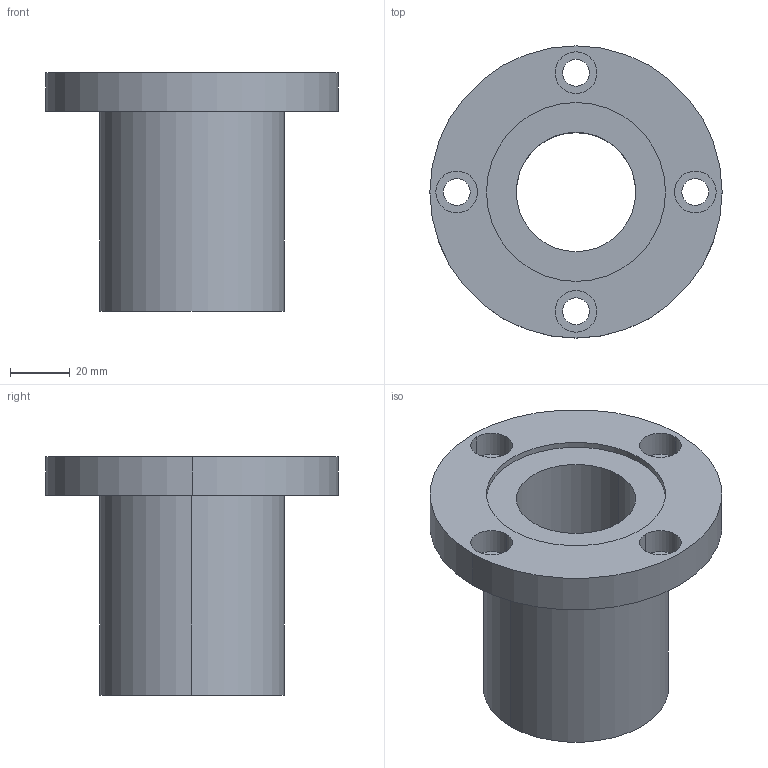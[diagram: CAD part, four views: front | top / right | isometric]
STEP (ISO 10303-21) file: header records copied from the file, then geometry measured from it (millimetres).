
FILE_DESCRIPTION((''),'2;1');
FILE_NAME('C:\Documents and Settings\ｿﾀﾀ蠑ｷ1\ｹﾙﾅﾁ ﾈｭｸ饅\ｺﾎﾇｰﾆﾄﾀﾏ\ﾁｦﾇｰ\LMEF__UU\LMEF40UU.stp','2005-06-15T10:51:35',('ｿﾀﾀ蠑ｷ1'),(''),'Autodesk Inventor 9','Autodesk Inventor 9','');
FILE_SCHEMA(('AUTOMOTIVE_DESIGN { 1 0 10303 214 1 1 1 1 }'));
Length unit declared in the file: millimetre
Products named in the file (1): LMEF__(L)
Bounding box: 98 x 98 x 80 mm (x, y, z)
Volume: 187107.6 mm3; surface area: 41431 mm2
Topology: 1 solids, 1 shells, 35 faces, 78 edges, 52 vertices
Faces by surface type: bspline 20, cylinder 10, plane 5
Entity records: 1255 total; most frequent: CARTESIAN_POINT 450, DIRECTION 162, ORIENTED_EDGE 156, EDGE_CURVE 78, AXIS2_PLACEMENT_3D 68, VERTEX_POINT 52, CIRCLE 52, EDGE_LOOP 52
